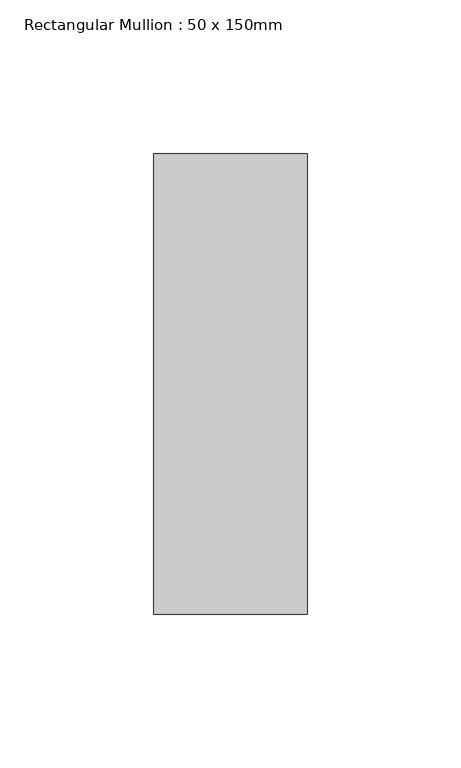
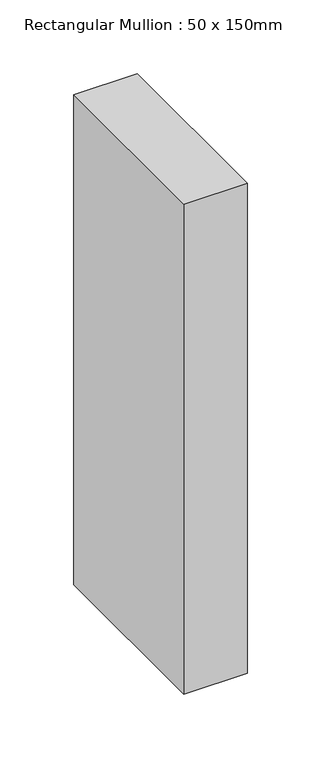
"""IFC4 building model written with IfcOpenShell, lengths in millimetres: member geometry, Rectangular Mullion : 50 x 150mm."""

from ifc_helpers import new_model, si_unit, frame, origin, place, context, project, spatial, polyline, outline, extrude, source, transform, mapped, element, save


def rectangular_mullion_50_x_150mm_6df5bc23(model_context):
    return source(origin(), model_context, "Body", "SweptSolid", [
        extrude(outline(polyline([(0.0, 75.0), (0.0, -75.0), (-50.0, -75.0), (-50.0, 75.0), (0.0, 75.0)])), frame((0.0, 0.0, -407.2), z_axis=(0.0, 0.0, 1.0), x_axis=(1.0, 0.0, 0.0)), (0.0, 0.0, 1.0), 407.2),
    ])


if __name__ == "__main__":
    model = new_model("IFC4")
    model_context = context("Model", 3, world=origin())
    ifc_project = project(units=[si_unit("LENGTHUNIT", "METRE", prefix="MILLI")], contexts=[model_context])
    site = spatial("IfcSite", under=ifc_project)
    building = spatial("IfcBuilding", under=site)
    placement = place(None, origin())
    rectangular_mullion_50_x_150mm_shape = rectangular_mullion_50_x_150mm_6df5bc23(model_context)
    element("IfcMember", 1, ObjectType="Rectangular Mullion : 50 x 150mm", at=placement, inside=building, context=model_context, shape_type="MappedRepresentation", body=[
        mapped(rectangular_mullion_50_x_150mm_shape, transform((0.0, 0.0, 0.0), x_axis=(1.0, 0.0, 0.0), y_axis=(0.0, 1.0, 0.0), z_axis=(0.0, 0.0, 1.0))),
    ])
    save(model, "model.ifc")
